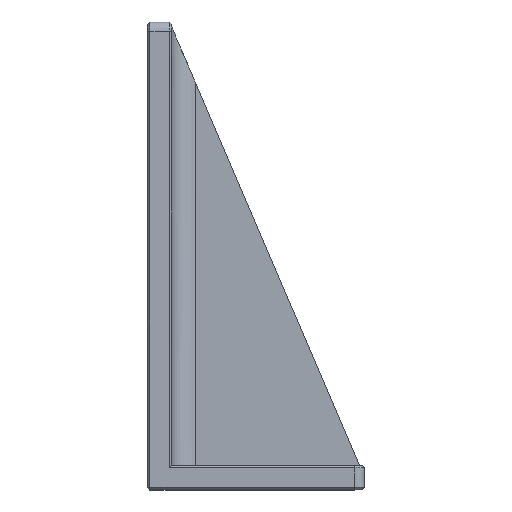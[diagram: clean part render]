
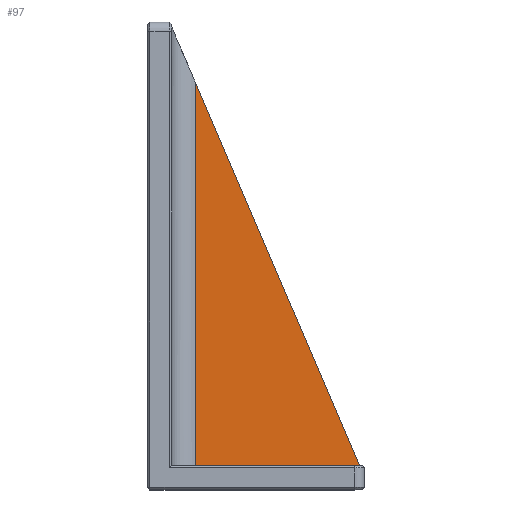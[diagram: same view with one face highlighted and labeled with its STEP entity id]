
A CAD part, top view. The second image highlights one B-rep face of the part: STEP entity #97.
In plain terms, the highlighted planar face has unit normal (0, 0, 1).
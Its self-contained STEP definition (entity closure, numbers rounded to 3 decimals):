
#93 = DIRECTION ( 'NONE',  ( 1., 0., 0. ) ) ;
#97 = ADVANCED_FACE ( 'NONE', ( #725 ), #2496, .F. ) ;
#109 = CARTESIAN_POINT ( 'NONE',  ( 39., -70.69, 26.5 ) ) ;
#130 = ORIENTED_EDGE ( 'NONE', *, *, #554, .T. ) ;
#296 = ORIENTED_EDGE ( 'NONE', *, *, #745, .T. ) ;
#359 = CARTESIAN_POINT ( 'NONE',  ( 5., -70.69, 26.5 ) ) ;
#454 = DIRECTION ( 'NONE',  ( 0., -1., 0. ) ) ;
#494 = LINE ( 'NONE', #2016, #1918 ) ;
#530 = AXIS2_PLACEMENT_3D ( 'NONE', #768, #2259, #1733 ) ;
#553 = VECTOR ( 'NONE', #454, 1000. ) ;
#554 = EDGE_CURVE ( 'NONE', #866, #1669, #1517, .T. ) ;
#725 = FACE_OUTER_BOUND ( 'NONE', #2202, .T. ) ;
#745 = EDGE_CURVE ( 'NONE', #1669, #817, #1827, .T. ) ;
#768 = CARTESIAN_POINT ( 'NONE',  ( 0., 0., 26.5 ) ) ;
#817 = VERTEX_POINT ( 'NONE', #1119 ) ;
#866 = VERTEX_POINT ( 'NONE', #901 ) ;
#901 = CARTESIAN_POINT ( 'NONE',  ( 5., 8.643, 26.5 ) ) ;
#1119 = CARTESIAN_POINT ( 'NONE',  ( 39., -70.69, 26.5 ) ) ;
#1145 = ORIENTED_EDGE ( 'NONE', *, *, #2468, .T. ) ;
#1325 = CARTESIAN_POINT ( 'NONE',  ( 5., -70.69, 26.5 ) ) ;
#1517 = LINE ( 'NONE', #1325, #553 ) ;
#1630 = VECTOR ( 'NONE', #93, 1000. ) ;
#1652 = DIRECTION ( 'NONE',  ( -0.394, 0.919, 0. ) ) ;
#1669 = VERTEX_POINT ( 'NONE', #359 ) ;
#1733 = DIRECTION ( 'NONE',  ( -1., 0., 0. ) ) ;
#1827 = LINE ( 'NONE', #109, #1630 ) ;
#1918 = VECTOR ( 'NONE', #1652, 1000. ) ;
#2016 = CARTESIAN_POINT ( 'NONE',  ( 39., -70.69, 26.5 ) ) ;
#2202 = EDGE_LOOP ( 'NONE', ( #1145, #130, #296 ) ) ;
#2259 = DIRECTION ( 'NONE',  ( 0., 0., -1. ) ) ;
#2468 = EDGE_CURVE ( 'NONE', #817, #866, #494, .T. ) ;
#2496 = PLANE ( 'NONE',  #530 ) ;
